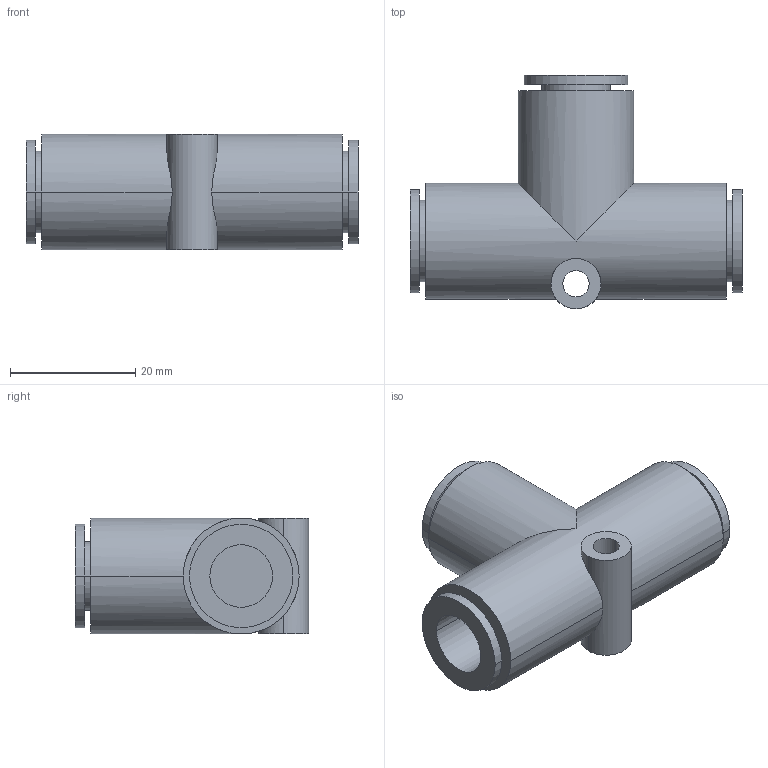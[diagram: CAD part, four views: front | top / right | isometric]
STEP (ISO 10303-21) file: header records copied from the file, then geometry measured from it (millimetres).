
FILE_DESCRIPTION( ( '' ), '1' );
FILE_NAME( 'G:/SMC狟婥/KQ2T10-08A.stp', '2023-03-07T03:33:04', ( '' ), ( '' ), ' ', ' ', ' ' );
FILE_SCHEMA( ( 'CONFIG_CONTROL_DESIGN' ) );
Length unit declared in the file: millimetre
Products named in the file (1): 1
Bounding box: 53 x 37.3 x 18.5 mm (x, y, z)
Volume: 14467.4 mm3; surface area: 7376.5 mm2
Topology: 1 solids, 1 shells, 41 faces, 90 edges, 60 vertices
Faces by surface type: cylinder 27, plane 14
Entity records: 1320 total; most frequent: CARTESIAN_POINT 318, DIRECTION 222, ORIENTED_EDGE 180, AXIS2_PLACEMENT_3D 96, EDGE_CURVE 90, VERTEX_POINT 60, EDGE_LOOP 52, CIRCLE 50
